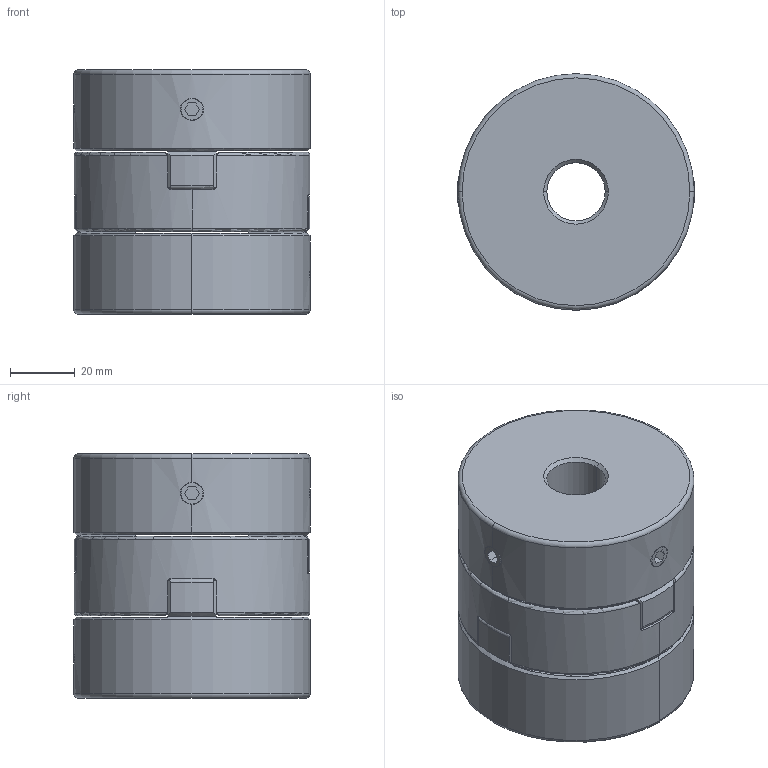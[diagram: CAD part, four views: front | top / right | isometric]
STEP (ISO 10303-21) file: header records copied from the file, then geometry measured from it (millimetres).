
FILE_DESCRIPTION (( 'STEP AP203' ), '1' );
FILE_NAME ('SOH-70-18X35_203.STEP', '2013-01-29T07:56:21', ( '' ), ( '' ), 'SwSTEP 2.0', 'SolidWorks 2012', '' );
FILE_SCHEMA (( 'CONFIG_CONTROL_DESIGN' ));
Length unit declared in the file: millimetre
Products named in the file (1): SOH-70-18X35_203
Bounding box: 73 x 73 x 75.5 mm (x, y, z)
Volume: 252463.6 mm3; surface area: 44753.8 mm2
Topology: 1 solids, 1 shells, 198 faces, 539 edges, 329 vertices
Faces by surface type: plane 100, cylinder 48, cone 29, torus 13, sphere 8
Entity records: 7056 total; most frequent: CARTESIAN_POINT 2069, ORIENTED_EDGE 1078, DIRECTION 979, EDGE_CURVE 539, AXIS2_PLACEMENT_3D 353, VERTEX_POINT 329, VECTOR 273, LINE 273
